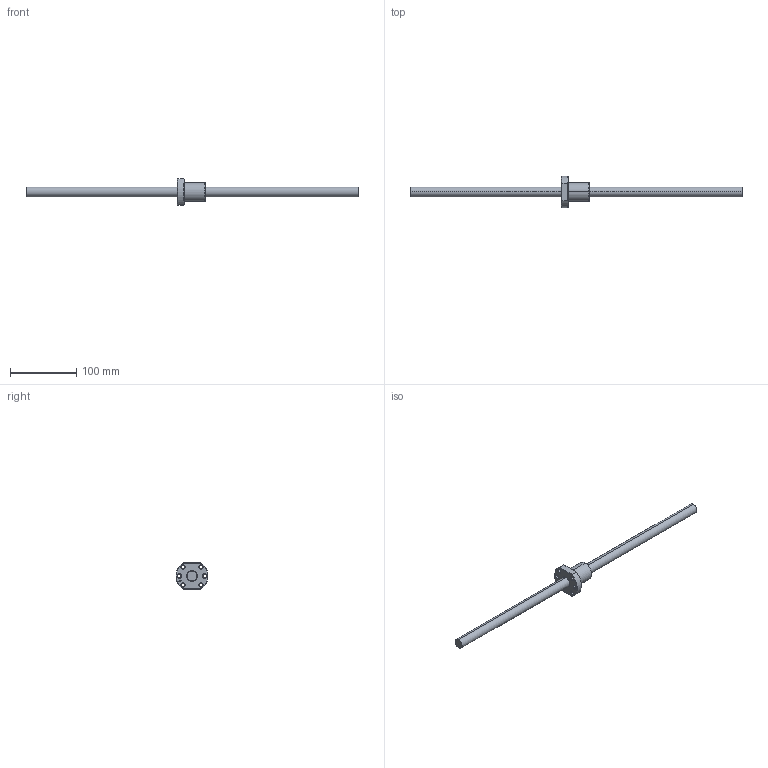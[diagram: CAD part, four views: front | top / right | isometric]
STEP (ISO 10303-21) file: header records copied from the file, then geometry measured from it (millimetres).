
FILE_DESCRIPTION (( 'STEP AP203' ), '1' );
FILE_NAME ('SFB1610-2.8.STEP', '2024-08-13T02:59:28', ( '' ), ( '' ), 'SwSTEP 2.0', 'SolidWorks 2022', '' );
FILE_SCHEMA (( 'CONFIG_CONTROL_DESIGN' ));
Length unit declared in the file: millimetre
Products named in the file (1): SFB1610-2.8
Bounding box: 500 x 48 x 40 mm (x, y, z)
Volume: 113908 mm3; surface area: 34152.1 mm2
Topology: 2 solids, 2 shells, 85 faces, 210 edges, 130 vertices
Faces by surface type: cylinder 35, cone 26, plane 12, bspline 6, torus 6
Entity records: 6279 total; most frequent: CARTESIAN_POINT 4240, ORIENTED_EDGE 420, DIRECTION 403, EDGE_CURVE 210, AXIS2_PLACEMENT_3D 164, VERTEX_POINT 130, EDGE_LOOP 102, FACE_OUTER_BOUND 85
